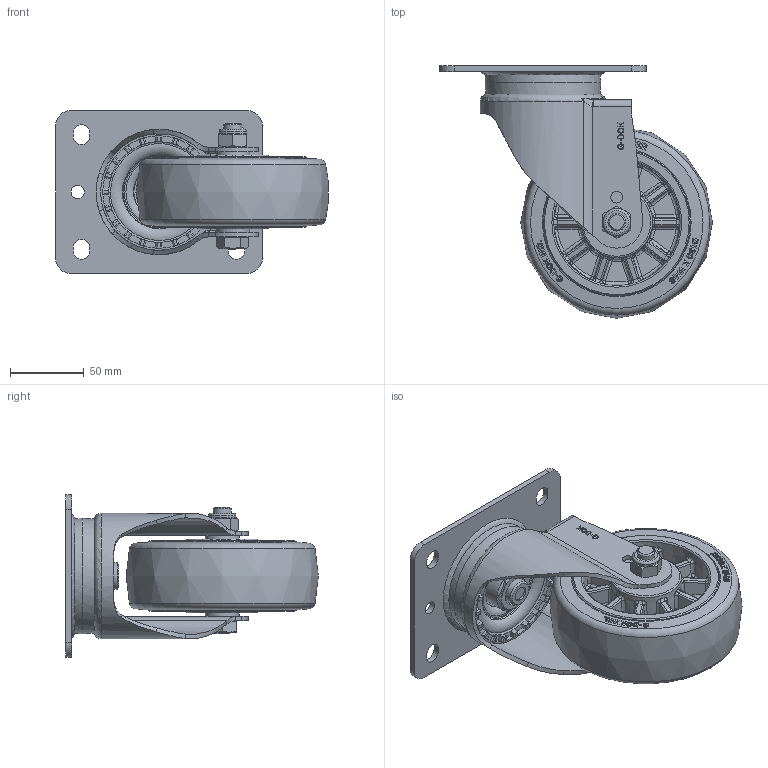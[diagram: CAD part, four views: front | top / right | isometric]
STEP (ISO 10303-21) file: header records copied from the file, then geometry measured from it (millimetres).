
FILE_DESCRIPTION(/* description */ (''),/* implementation_level */ '2;1');
FILE_NAME(/* name */ 'C:\Users\admin\Desktop\업무폴더\일자별 업무\2026\05월\05.15\변환\SPH-130-ASF-TUD&HRD-PEU.ipt.stp',/* time_stamp */ '2026-05-15T16:33:11+09:00',/* author */ ('admin'),/* organization */ ('지덕산업'),/* preprocessor_version */ 'ST-DEVELOPER v18.1',/* originating_system */ 'Autodesk Inventor 2021',/* authorisation */ '');
FILE_SCHEMA (('AUTOMOTIVE_DESIGN { 1 0 10303 214 3 1 1 }'));
Products named in the file (1): SPH-130-ASF-TUD&HRD
Bounding box: 184.76 x 171 x 110 mm (x, y, z)
Volume: 712855.9 mm3; surface area: 135156.9 mm2
Topology: 1 solids, 1 shells, 1703 faces, 4319 edges, 2716 vertices
Faces by surface type: plane 660, bspline 601, cylinder 220, sphere 80, cone 76, torus 66
Full cylindrical faces by diameter (mm): 8 x2, 9 x2, 10 x1, 12 x1, 18 x2, 18.5 x1, 31 x1, 31.177 x1
Entity records: 60868 total; most frequent: CARTESIAN_POINT 24861, ORIENTED_EDGE 8634, DIRECTION 5655, EDGE_CURVE 4317, VERTEX_POINT 2716, AXIS2_PLACEMENT_3D 1945, EDGE_LOOP 1821, LINE 1765
